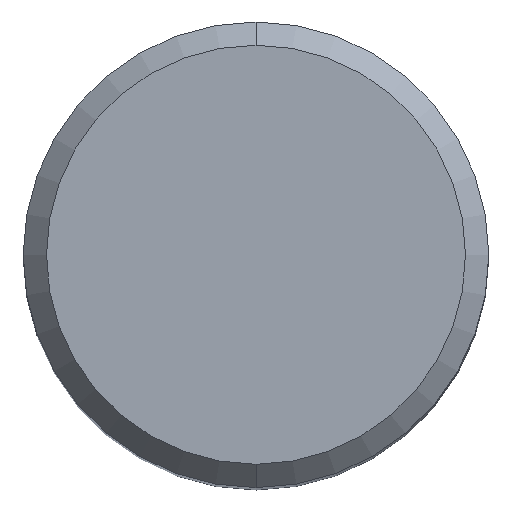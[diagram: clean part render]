
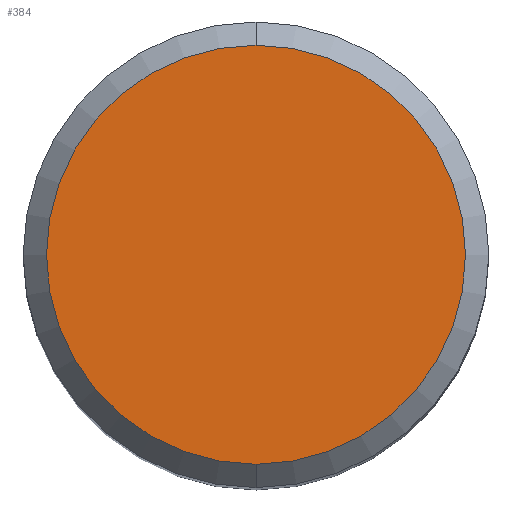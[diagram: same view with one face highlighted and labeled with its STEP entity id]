
A CAD part, top view. The second image highlights one B-rep face of the part: STEP entity #384.
In plain terms, the highlighted planar face has unit normal (0, 0, 1).
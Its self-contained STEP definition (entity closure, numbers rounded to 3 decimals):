
#384=ADVANCED_FACE('',(#744),#745,.T.);
#398=VERTEX_POINT('',#759);
#428=EDGE_CURVE('',#398,#464,#790,.T.);
#430=EDGE_CURVE('',#464,#398,#792,.T.);
#464=VERTEX_POINT('',#827);
#744=FACE_OUTER_BOUND('',#1313,.T.);
#745=PLANE('',#1314);
#759=CARTESIAN_POINT('',(0.0,7.2,0.0));
#790=CIRCLE('',#1420,7.2);
#792=CIRCLE('',#1423,7.2);
#827=CARTESIAN_POINT('',(0.,-7.2,0.0));
#1313=EDGE_LOOP('',(#1898,#1899));
#1314=AXIS2_PLACEMENT_3D('',#1900,#1901,#1902);
#1420=AXIS2_PLACEMENT_3D('',#1930,#1931,#1932);
#1423=AXIS2_PLACEMENT_3D('',#1933,#1934,#1935);
#1898=ORIENTED_EDGE('',*,*,#428,.F.);
#1899=ORIENTED_EDGE('',*,*,#430,.F.);
#1900=CARTESIAN_POINT('',(0.0,3.6,0.0));
#1901=DIRECTION('',(-0.0,0.0,1.0));
#1902=DIRECTION('',(0.0,-1.0,0.0));
#1930=CARTESIAN_POINT('',(0.0,0.0,0.0));
#1931=DIRECTION('',(0.0,0.0,-1.0));
#1932=DIRECTION('',(0.0,1.0,0.0));
#1933=CARTESIAN_POINT('',(0.0,0.0,0.0));
#1934=DIRECTION('',(0.0,0.0,-1.0));
#1935=DIRECTION('',(0.0,1.0,0.0));
